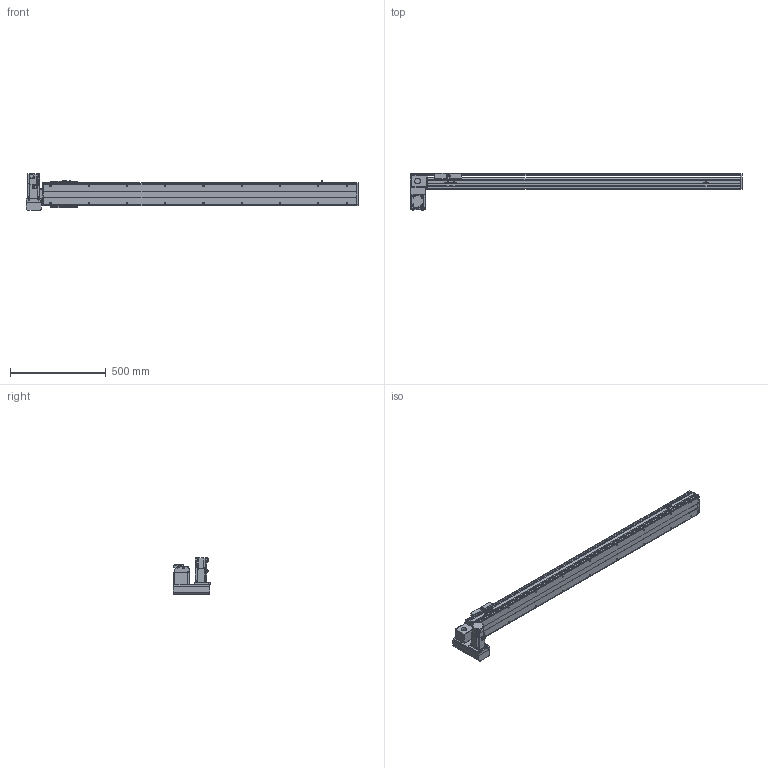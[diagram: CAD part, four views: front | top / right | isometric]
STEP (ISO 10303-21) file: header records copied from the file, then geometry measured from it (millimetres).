
FILE_DESCRIPTION( ( 'STEP AP214' ), '1' );
FILE_NAME( 'x:/temp/worker_27/temp/exporttempdir_6708_49_hIi2C/format_0/PBS120-P40-S1350-LD-T40-C1-N(0).stp', '2022-06-06T00:17:04', ( 'License CC BY-ND 4.0' ), ( 'CADENAS' ), ' ', 'PARTsolutions', ' ' );
FILE_SCHEMA( ( 'AUTOMOTIVE_DESIGN { 1 0 10303 214 1 1 1 1 }' ) );
Length unit declared in the file: millimetre
Products named in the file (7): PBS120-P40-S1350-LD-T40-C1-N(0); _PBS120-S1350()_body; _PBS120T-LD_motors; _T40-p1; _PBS120_sliser; _PBS120_plant; _PBS120_sensor
Assembly tree (8 placements, depth 2):
  PBS120-P40-S1350-LD-T40-C1-N(0)
    _PBS120-S1350()_body
    _PBS120T-LD_motors
    _T40-p1
    _PBS120_sliser
    _PBS120_plant
    _PBS120_sensor  x3
Bounding box: 1736 x 196 x 189.7 mm (x, y, z)
Volume: 7100529.1 mm3; surface area: 1415095.2 mm2
Topology: 8 solids, 8 shells, 834 faces, 2166 edges, 1393 vertices
Faces by surface type: plane 551, cylinder 231, cone 50, torus 2
Full cylindrical faces by diameter (mm): 2.459 x6, 3.242 x4, 4 x2, 4.134 x4, 4.5 x10, 4.917 x22, 5.5 x11, 6 x2, 6.6 x1, 7 x2, 8.5 x4, 9 x4, 12 x1, 14 x1, 30 x2, 40 x1, 50 x2
Entity records: 27492 total; most frequent: DIRECTION 3764, CARTESIAN_POINT 3695, ORIENTED_EDGE 3514, EDGE_CURVE 1757, AXIS2_PLACEMENT_3D 1268, LINE 1228, VECTOR 1228, VERTEX_POINT 1199
